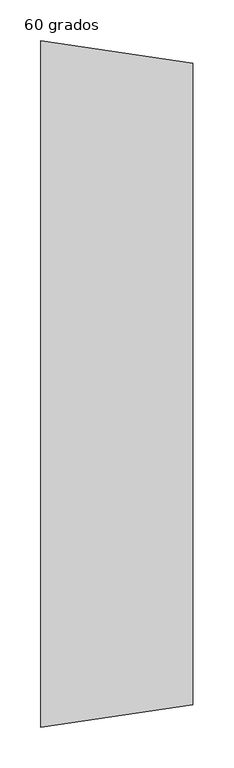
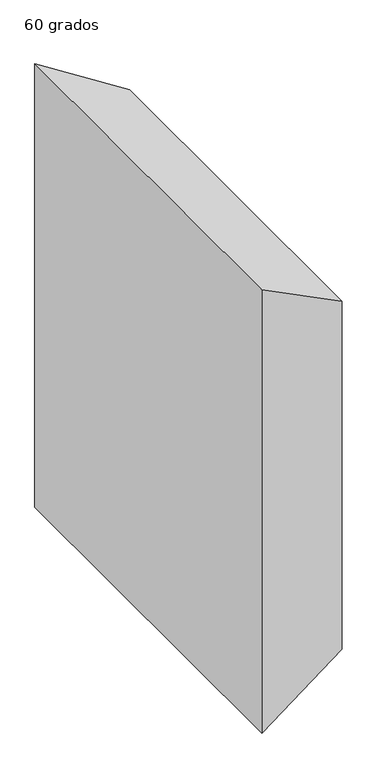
"""IFC4 building model written with IfcOpenShell, lengths in millimetres: duct fitting geometry, M_Transición rectangular - Ángulo : 60 grados."""

from ifc_helpers import new_model, si_unit, origin, place, context, project, spatial, faceted_brep, source, transform, mapped, element, save


def duct_fitting_60_grados_f2605cb0(model_context):
    return source(origin(), model_context, "Body", "Brep", [
        faceted_brep([(186.1954618, -392.5, 392.5), (186.1954618, -392.5, -392.5), (186.1954618, 392.5, -392.5), (186.1954618, 392.5, 392.5), (0.0, -420.0, 500.0), (0.0, 420.0, 500.0), (0.0, 420.0, -500.0), (0.0, -420.0, -500.0)], [[[0, 1, 2, 3]], [[4, 5, 6, 7]], [[4, 7, 1, 0]], [[7, 6, 2, 1]], [[6, 5, 3, 2]], [[5, 4, 0, 3]]]),
    ])


if __name__ == "__main__":
    model = new_model("IFC4")
    model_context = context("Model", 3, world=origin())
    ifc_project = project(units=[si_unit("LENGTHUNIT", "METRE", prefix="MILLI")], contexts=[model_context])
    site = spatial("IfcSite", under=ifc_project)
    building = spatial("IfcBuilding", under=site)
    placement = place(None, origin())
    duct_fitting_60_grados_shape = duct_fitting_60_grados_f2605cb0(model_context)
    element("IfcDuctFitting", 1, ObjectType="M_Transición rectangular - Ángulo : 60 grados", at=placement, inside=building, context=model_context, shape_type="MappedRepresentation", body=[
        mapped(duct_fitting_60_grados_shape, transform((0.0, 0.0, 0.0), x_axis=(1.0, 0.0, 0.0), y_axis=(0.0, 1.0, 0.0), z_axis=(0.0, 0.0, 1.0))),
    ])
    save(model, "model.ifc")
